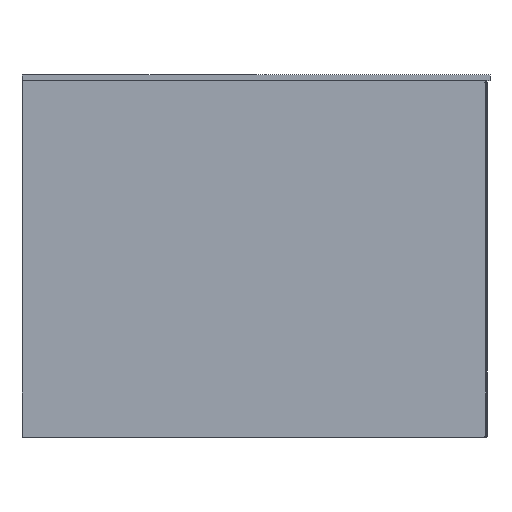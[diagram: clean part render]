
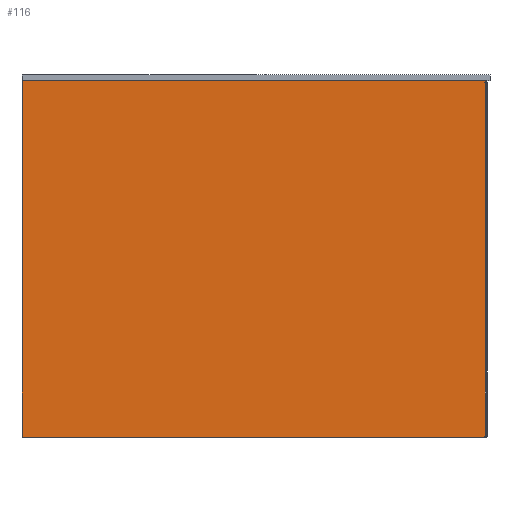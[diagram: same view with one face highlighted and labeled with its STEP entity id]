
A CAD part, front view. The second image highlights one B-rep face of the part: STEP entity #116.
In plain terms, the highlighted planar face has unit normal (0, -1, 0).
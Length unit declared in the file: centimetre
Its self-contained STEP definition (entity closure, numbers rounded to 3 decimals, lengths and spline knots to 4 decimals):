
#116=ADVANCED_FACE('',(#237),#1747,.T.);
#237=FACE_OUTER_BOUND('',#363,.T.);
#363=EDGE_LOOP('',(#685,#686,#687,#688));
#685=ORIENTED_EDGE('',*,*,#1108,.T.);
#686=ORIENTED_EDGE('',*,*,#1109,.T.);
#687=ORIENTED_EDGE('',*,*,#1106,.F.);
#688=ORIENTED_EDGE('',*,*,#1110,.T.);
#1106=EDGE_CURVE('',#1611,#1612,#1339,.T.);
#1108=EDGE_CURVE('',#1613,#1614,#1340,.T.);
#1109=EDGE_CURVE('',#1614,#1612,#1341,.T.);
#1110=EDGE_CURVE('',#1611,#1613,#1342,.T.);
#1339=B_SPLINE_CURVE_WITH_KNOTS('',1,(#2601,#2602),.UNSPECIFIED.,.F.,.F.,
(2,2),(0.,38.4),.UNSPECIFIED.);
#1340=B_SPLINE_CURVE_WITH_KNOTS('',1,(#2606,#2607),.UNSPECIFIED.,.F.,.F.,
(2,2),(0.,38.4),.UNSPECIFIED.);
#1341=B_SPLINE_CURVE_WITH_KNOTS('',1,(#2608,#2609),.UNSPECIFIED.,.F.,.F.,
(2,2),(0.,49.9),.UNSPECIFIED.);
#1342=B_SPLINE_CURVE_WITH_KNOTS('',1,(#2610,#2611),.UNSPECIFIED.,.F.,.F.,
(2,2),(0.,49.9),.UNSPECIFIED.);
#1611=VERTEX_POINT('',#2584);
#1612=VERTEX_POINT('',#2585);
#1613=VERTEX_POINT('',#2586);
#1614=VERTEX_POINT('',#2587);
#1747=PLANE('',#1907);
#1907=AXIS2_PLACEMENT_3D('',#2575,#2031,$);
#2031=DIRECTION('',(0.,-1.,0.));
#2575=CARTESIAN_POINT('',(-5.002,0.2,-3.852));
#2584=CARTESIAN_POINT('',(49.9,0.2,38.4));
#2585=CARTESIAN_POINT('',(49.9,0.2,0.));
#2586=CARTESIAN_POINT('',(0.,0.2,38.4));
#2587=CARTESIAN_POINT('',(0.,0.2,0.));
#2601=CARTESIAN_POINT('',(49.9,0.2,38.4));
#2602=CARTESIAN_POINT('',(49.9,0.2,0.));
#2606=CARTESIAN_POINT('',(0.,0.2,38.4));
#2607=CARTESIAN_POINT('',(0.,0.2,0.));
#2608=CARTESIAN_POINT('',(0.,0.2,0.));
#2609=CARTESIAN_POINT('',(49.9,0.2,0.));
#2610=CARTESIAN_POINT('',(49.9,0.2,38.4));
#2611=CARTESIAN_POINT('',(0.,0.2,38.4));
